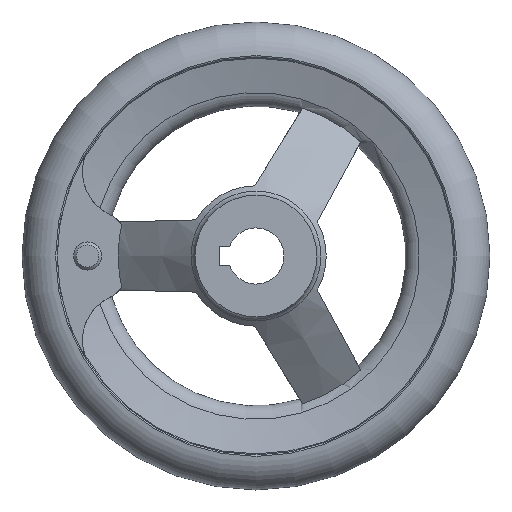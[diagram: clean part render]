
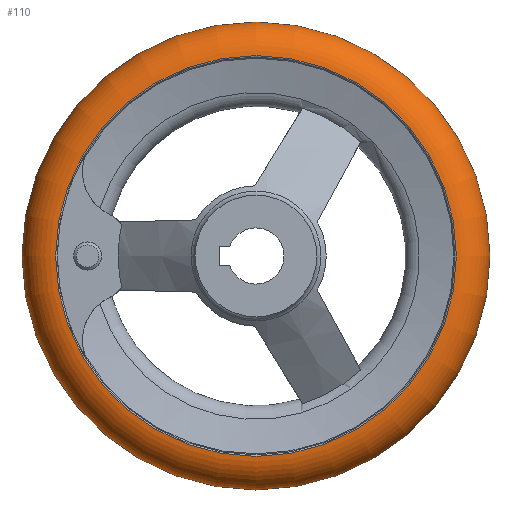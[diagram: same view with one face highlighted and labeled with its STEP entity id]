
A CAD part, left-side view. The second image highlights one B-rep face of the part: STEP entity #110.
In plain terms, the highlighted toroidal (fillet/blend) face has major radius 42.493 mm and minor radius 7.507 mm.
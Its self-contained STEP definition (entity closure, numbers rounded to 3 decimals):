
#110 = ADVANCED_FACE( '', ( #210, #211, #212 ), #213, .T. );
#210 = FACE_BOUND( '', #334, .T. );
#211 = FACE_OUTER_BOUND( '', #335, .T. );
#212 = FACE_OUTER_BOUND( '', #336, .T. );
#213 = TOROIDAL_SURFACE( '', #337, 42.493, 7.507 );
#334 = VERTEX_LOOP( '', #691 );
#335 = EDGE_LOOP( '', ( #692 ) );
#336 = EDGE_LOOP( '', ( #693 ) );
#337 = AXIS2_PLACEMENT_3D( '', #694, #695, #696 );
#691 = VERTEX_POINT( '', #880 );
#692 = ORIENTED_EDGE( '', *, *, #881, .T. );
#693 = ORIENTED_EDGE( '', *, *, #882, .F. );
#694 = CARTESIAN_POINT( '', ( 25.5, 0., 0. ) );
#695 = DIRECTION( '', ( 1., 0., 0. ) );
#696 = DIRECTION( '', ( 0., 1., 0. ) );
#880 = CARTESIAN_POINT( '', ( 25.5, 50., 0. ) );
#881 = EDGE_CURVE( '', #1067, #1067, #1068, .T. );
#882 = EDGE_CURVE( '', #1069, #1069, #1070, .T. );
#1067 = VERTEX_POINT( '', #1637 );
#1068 = CIRCLE( '', #1638, 42.813 );
#1069 = VERTEX_POINT( '', #1639 );
#1070 = CIRCLE( '', #1640, 42.813 );
#1637 = CARTESIAN_POINT( '', ( 18., 42.813, 0. ) );
#1638 = AXIS2_PLACEMENT_3D( '', #1804, #1805, #1806 );
#1639 = CARTESIAN_POINT( '', ( 33., 42.813, 0. ) );
#1640 = AXIS2_PLACEMENT_3D( '', #1807, #1808, #1809 );
#1804 = CARTESIAN_POINT( '', ( 18., 0., 0. ) );
#1805 = DIRECTION( '', ( 1., 0., 0. ) );
#1806 = DIRECTION( '', ( 0., 1., 0. ) );
#1807 = CARTESIAN_POINT( '', ( 33., 0., 0. ) );
#1808 = DIRECTION( '', ( 1., 0., 0. ) );
#1809 = DIRECTION( '', ( 0., 1., 0. ) );
